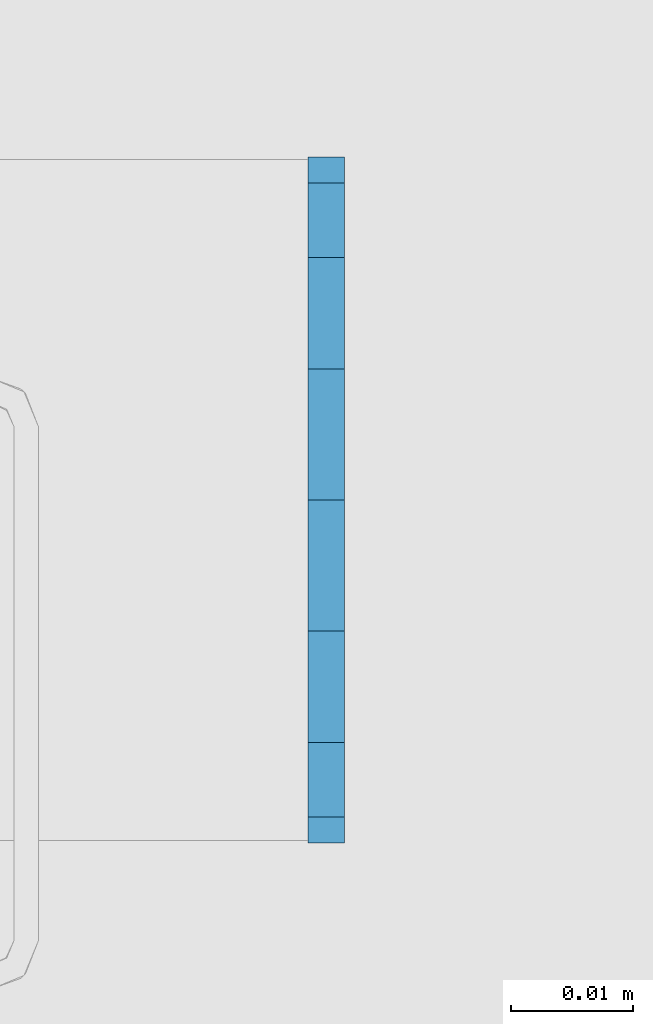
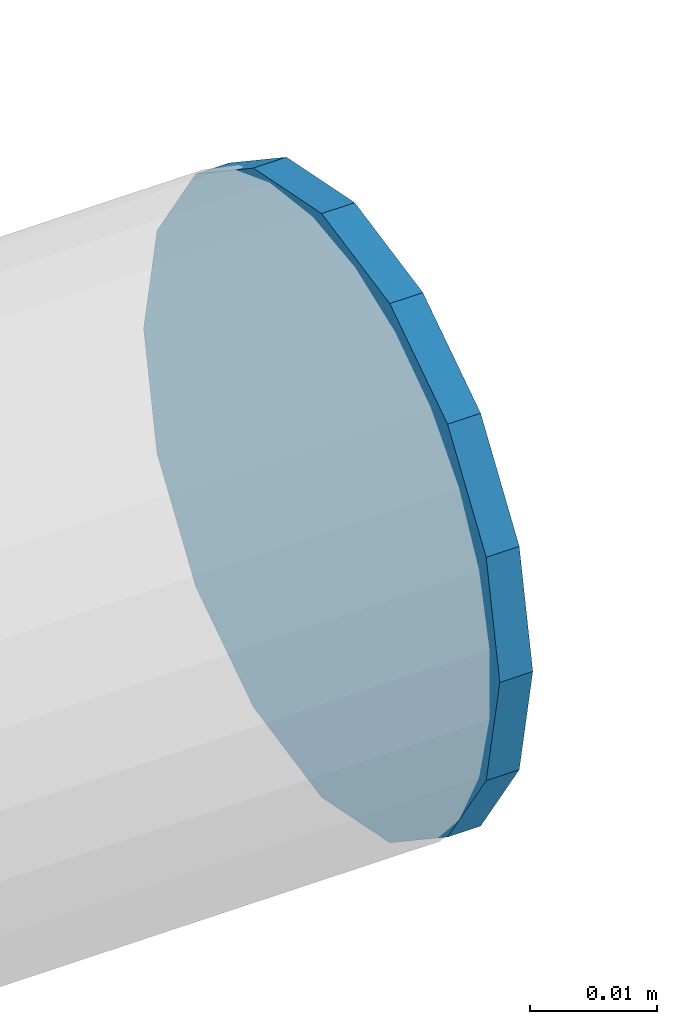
# One storey, part 112 of 186: 1 beam.
"""IFC4X3_ADD2 building model written with IfcOpenShell, lengths in millimetres."""

from ifc_helpers import new_model, si_unit, direction, frame, origin_with_axes, place, context, subcontext, project, spatial, indexed_curve, outline, extrude, material, element, save


model = new_model("IFC4X3_ADD2")

# Units and contexts
model_context = context("Model", 3, precision=1e-05, world=origin_with_axes(), true_north=direction((0.0, 1.0)))
body_context = subcontext(model_context, "Body", "Model", "MODEL_VIEW")
ifc_project = project(units=[si_unit("LENGTHUNIT", "METRE", prefix="MILLI"), si_unit("AREAUNIT", "SQUARE_METRE"), si_unit("VOLUMEUNIT", "CUBIC_METRE"), si_unit("PLANEANGLEUNIT", "RADIAN"), si_unit("TIMEUNIT", "SECOND"), si_unit("MASSUNIT", "GRAM")], contexts=[model_context])

# Site, building, storey
site_placement = place(None, origin_with_axes())
site = spatial("IfcSite", under=ifc_project, at=site_placement, Name="Site", CompositionType="ELEMENT")
building_placement = place(site_placement, origin_with_axes())
building = spatial("IfcBuilding", under=site, at=building_placement, Name="IFC Building Story")
storey_placement = place(building_placement, frame((0.0, 0.0, 4370.0), z_axis=(0.0, 0.0, 1.0), x_axis=(1.0, 0.0, 0.0)))
storey = spatial("IfcBuildingStorey", under=building, at=storey_placement, Name="ETAGE 10 (1)", Elevation=4370.0)

# Beam
ifc_material = material(Name="STEEL/Accessory 22919")
beam_placement = place(storey_placement, frame((40161.1887207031, 26354.9989624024, 1336.999999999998), z_axis=(-1.0, 0.0, 0.0), x_axis=(0.0, 0.5555702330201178, 0.8314696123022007)))
element("IfcBeam", 1, at=beam_placement, inside=storey, material=ifc_material, Name="TA4", ObjectType="D56", context=body_context, shape_type="SweptSolid", body=[
    extrude(outline(indexed_curve([(23.28114914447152, 15.55596652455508), (27.46198785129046, 5.462529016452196), (27.46198785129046, -5.462529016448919), (23.28114914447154, -15.55596652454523), (15.55596652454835, -23.28114914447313), (5.462529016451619, -27.46198785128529), (-5.462529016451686, -27.46198785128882), (-15.55596652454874, -23.28114914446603), (-23.2811491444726, -15.55596652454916), (-27.46198785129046, -5.462529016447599), (-27.46198785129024, 5.462529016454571), (-23.28114914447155, 15.55596652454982), (-15.55596652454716, 23.28114914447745), (-5.462529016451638, 27.46198785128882), (5.462529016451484, 27.46198785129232), (15.55596652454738, 23.28114914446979), (23.28114914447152, 15.55596652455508)])), origin_with_axes(), (0.0, 0.0, 1.0), 2.999999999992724),
])

save(model, "model.ifc")
